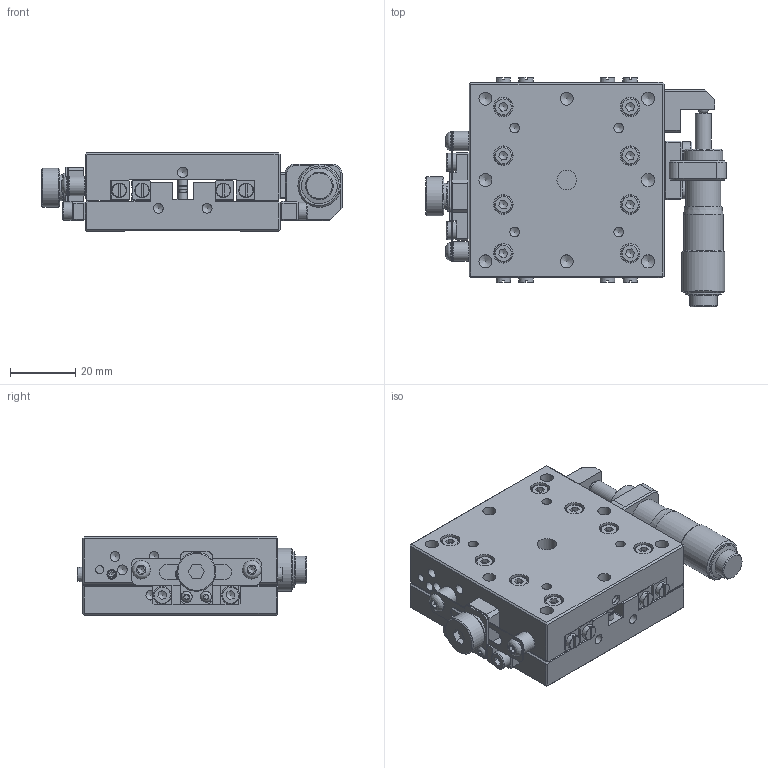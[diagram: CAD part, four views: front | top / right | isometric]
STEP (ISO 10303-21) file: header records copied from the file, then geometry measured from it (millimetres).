
FILE_DESCRIPTION((''),'2;1');
FILE_NAME('D:\9_3D도면\1_DPIn\4_2015\0.2015_STAGE\2. Manual Stage\1. AL-Stage\S1\S1-6024\S1-6024R(2015).stp','2016-07-25T15:41:05',('user'),(''),'Autodesk Inventor 2010','Autodesk Inventor 2010','');
FILE_SCHEMA(('CONFIG_CONTROL_DESIGN'));
Length unit declared in the file: millimetre
Products named in the file (3): S1-6024R(2015) 조립품001-2016.07; S1-6024R(2015) UNDER-2016.07; S1-6024R(2015) UPPER-2016.07
Assembly tree (2 placements, depth 2):
  S1-6024R(2015) 조립품001-2016.07
    S1-6024R(2015) UNDER-2016.07
    S1-6024R(2015) UPPER-2016.07
Bounding box: 92.3 x 70.5 x 24 mm (x, y, z)
Volume: 87539.1 mm3; surface area: 45337.2 mm2
Topology: 38 solids, 43 shells, 1115 faces, 2620 edges, 1689 vertices
Faces by surface type: plane 672, cylinder 163, bspline 151, cone 88, torus 37, sphere 4
Full cylindrical faces by diameter (mm): 2 x4, 2.5 x1, 2.55 x12, 3 x30, 3.2 x3, 3.4 x18, 4 x1, 4.4 x16, 4.5 x6, 5 x1, 5.5 x21, 5.7 x2, 6 x10, 8 x5, 8.5 x1, 9 x2, 9.5 x2, 9.7 x1, 10.7 x1, 11 x1, 12 x2, 12.1 x1, 13.2 x1
Entity records: 31390 total; most frequent: CARTESIAN_POINT 8136, DIRECTION 4503, ORIENTED_EDGE 4144, EDGE_CURVE 2072, EDGE_LOOP 1701, AXIS2_PLACEMENT_3D 1625, VERTEX_POINT 1527, VECTOR 1253
